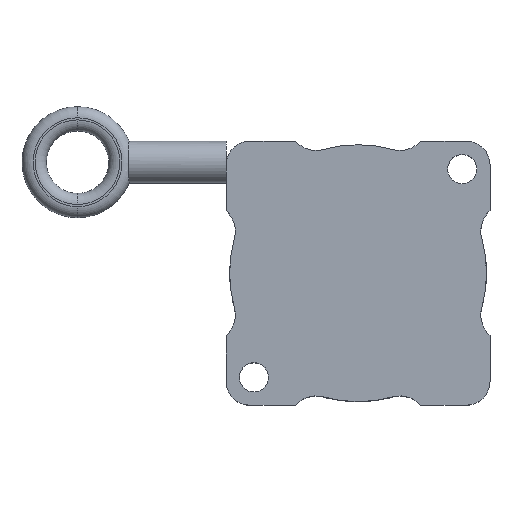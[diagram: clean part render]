
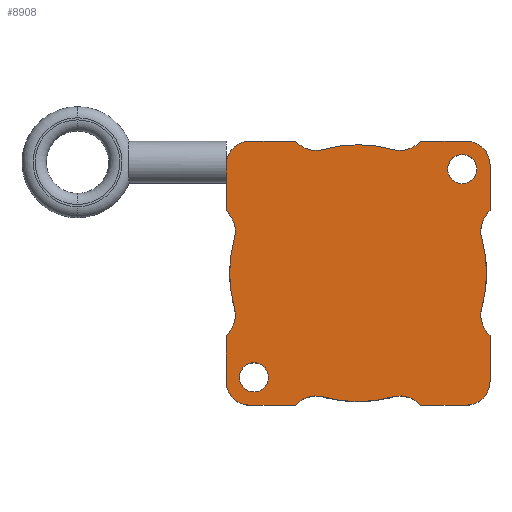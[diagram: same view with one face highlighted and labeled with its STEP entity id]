
A CAD part, top view. The second image highlights one B-rep face of the part: STEP entity #8908.
In plain terms, the highlighted planar face has unit normal (0, 0, 1).
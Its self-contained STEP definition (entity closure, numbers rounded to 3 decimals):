
#803=CARTESIAN_POINT('',(-3.014,-10.839,5.9));
#804=DIRECTION('',(0.,0.,-1.));
#805=DIRECTION('',(-0.743,0.669,0.));
#806=AXIS2_PLACEMENT_3D('',#803,#804,#805);
#808=DIRECTION('',(1.,0.,0.));
#809=VECTOR('',#808,3.3);
#810=CARTESIAN_POINT('',(-7.8,-9.5,5.9));
#811=LINE('',#810,#809);
#812=CARTESIAN_POINT('',(-7.8,-7.8,5.9));
#813=DIRECTION('',(0.,0.,1.));
#814=DIRECTION('',(-1.,0.,0.));
#815=AXIS2_PLACEMENT_3D('',#812,#813,#814);
#817=DIRECTION('',(0.,-1.,0.));
#818=VECTOR('',#817,3.3);
#819=CARTESIAN_POINT('',(-9.5,-4.5,5.9));
#820=LINE('',#819,#818);
#821=CARTESIAN_POINT('',(-10.839,-3.014,5.9));
#822=DIRECTION('',(0.,0.,-1.));
#823=DIRECTION('',(0.963,0.268,0.));
#824=AXIS2_PLACEMENT_3D('',#821,#822,#823);
#826=CARTESIAN_POINT('',(-10.839,3.014,5.9));
#827=DIRECTION('',(0.,0.,-1.));
#828=DIRECTION('',(0.669,0.743,0.));
#829=AXIS2_PLACEMENT_3D('',#826,#827,#828);
#831=DIRECTION('',(0.,-1.,0.));
#832=VECTOR('',#831,3.3);
#833=CARTESIAN_POINT('',(-9.5,7.8,5.9));
#834=LINE('',#833,#832);
#835=CARTESIAN_POINT('',(-7.8,7.8,5.9));
#836=DIRECTION('',(0.,0.,1.));
#837=DIRECTION('',(0.,1.,0.));
#838=AXIS2_PLACEMENT_3D('',#835,#836,#837);
#840=DIRECTION('',(-1.,0.,0.));
#841=VECTOR('',#840,3.3);
#842=CARTESIAN_POINT('',(-4.5,9.5,5.9));
#843=LINE('',#842,#841);
#844=CARTESIAN_POINT('',(-3.014,10.839,5.9));
#845=DIRECTION('',(0.,0.,-1.));
#846=DIRECTION('',(0.268,-0.963,0.));
#847=AXIS2_PLACEMENT_3D('',#844,#845,#846);
#849=CARTESIAN_POINT('',(3.014,10.839,5.9));
#850=DIRECTION('',(0.,0.,-1.));
#851=DIRECTION('',(0.743,-0.669,0.));
#852=AXIS2_PLACEMENT_3D('',#849,#850,#851);
#854=DIRECTION('',(-1.,0.,0.));
#855=VECTOR('',#854,3.3);
#856=CARTESIAN_POINT('',(7.8,9.5,5.9));
#857=LINE('',#856,#855);
#858=CARTESIAN_POINT('',(7.8,7.8,5.9));
#859=DIRECTION('',(0.,0.,1.));
#860=DIRECTION('',(1.,0.,0.));
#861=AXIS2_PLACEMENT_3D('',#858,#859,#860);
#863=DIRECTION('',(0.,1.,0.));
#864=VECTOR('',#863,3.3);
#865=CARTESIAN_POINT('',(9.5,4.5,5.9));
#866=LINE('',#865,#864);
#867=CARTESIAN_POINT('',(10.839,3.014,5.9));
#868=DIRECTION('',(0.,0.,-1.));
#869=DIRECTION('',(-0.963,-0.268,0.));
#870=AXIS2_PLACEMENT_3D('',#867,#868,#869);
#872=CARTESIAN_POINT('',(10.839,-3.014,5.9));
#873=DIRECTION('',(0.,0.,-1.));
#874=DIRECTION('',(-0.669,-0.743,0.));
#875=AXIS2_PLACEMENT_3D('',#872,#873,#874);
#877=DIRECTION('',(0.,1.,0.));
#878=VECTOR('',#877,3.3);
#879=CARTESIAN_POINT('',(9.5,-7.8,5.9));
#880=LINE('',#879,#878);
#881=CARTESIAN_POINT('',(7.8,-7.8,5.9));
#882=DIRECTION('',(0.,0.,1.));
#883=DIRECTION('',(0.,-1.,0.));
#884=AXIS2_PLACEMENT_3D('',#881,#882,#883);
#886=DIRECTION('',(1.,0.,0.));
#887=VECTOR('',#886,3.3);
#888=CARTESIAN_POINT('',(4.5,-9.5,5.9));
#889=LINE('',#888,#887);
#890=CARTESIAN_POINT('',(3.014,-10.839,5.9));
#891=DIRECTION('',(0.,0.,-1.));
#892=DIRECTION('',(-0.268,0.963,0.));
#893=AXIS2_PLACEMENT_3D('',#890,#891,#892);
#895=CARTESIAN_POINT('',(7.5,7.5,5.9));
#896=DIRECTION('',(0.,0.,1.));
#897=DIRECTION('',(1.,0.,0.));
#898=AXIS2_PLACEMENT_3D('',#895,#896,#897);
#900=CARTESIAN_POINT('',(7.5,7.5,5.9));
#901=DIRECTION('',(0.,0.,1.));
#902=DIRECTION('',(-1.,0.,0.));
#903=AXIS2_PLACEMENT_3D('',#900,#901,#902);
#905=CARTESIAN_POINT('',(-7.5,-7.5,5.9));
#906=DIRECTION('',(0.,0.,-1.));
#907=DIRECTION('',(0.,-1.,0.));
#908=AXIS2_PLACEMENT_3D('',#905,#906,#907);
#910=CARTESIAN_POINT('',(-7.5,-7.5,5.9));
#911=DIRECTION('',(0.,0.,-1.));
#912=DIRECTION('',(0.,1.,0.));
#913=AXIS2_PLACEMENT_3D('',#910,#911,#912);
#928=CARTESIAN_POINT('',(0.,0.,5.9));
#929=DIRECTION('',(0.,0.,1.));
#930=DIRECTION('',(-0.268,-0.963,0.));
#931=AXIS2_PLACEMENT_3D('',#928,#929,#930);
#1035=CARTESIAN_POINT('',(0.,0.,5.9));
#1036=DIRECTION('',(0.,0.,1.));
#1037=DIRECTION('',(0.963,-0.268,0.));
#1038=AXIS2_PLACEMENT_3D('',#1035,#1036,#1037);
#1100=CARTESIAN_POINT('',(0.,0.,5.9));
#1101=DIRECTION('',(0.,0.,1.));
#1102=DIRECTION('',(0.268,0.963,0.));
#1103=AXIS2_PLACEMENT_3D('',#1100,#1101,#1102);
#1151=CARTESIAN_POINT('',(0.,0.,5.9));
#1152=DIRECTION('',(0.,0.,1.));
#1153=DIRECTION('',(-0.963,0.268,0.));
#1154=AXIS2_PLACEMENT_3D('',#1151,#1152,#1153);
#7128=CARTESIAN_POINT('',(-9.5,7.8,5.9));
#7129=CARTESIAN_POINT('',(-9.5,4.5,5.9));
#7130=VERTEX_POINT('',#7128);
#7131=VERTEX_POINT('',#7129);
#7132=CARTESIAN_POINT('',(-4.5,9.5,5.9));
#7133=CARTESIAN_POINT('',(-7.8,9.5,5.9));
#7134=VERTEX_POINT('',#7132);
#7135=VERTEX_POINT('',#7133);
#7136=CARTESIAN_POINT('',(-8.912,2.478,5.9));
#7137=VERTEX_POINT('',#7136);
#7138=CARTESIAN_POINT('',(-2.478,8.912,5.9));
#7139=VERTEX_POINT('',#7138);
#7140=CARTESIAN_POINT('',(7.8,9.5,5.9));
#7141=CARTESIAN_POINT('',(4.5,9.5,5.9));
#7142=VERTEX_POINT('',#7140);
#7143=VERTEX_POINT('',#7141);
#7144=CARTESIAN_POINT('',(9.5,4.5,5.9));
#7145=CARTESIAN_POINT('',(9.5,7.8,5.9));
#7146=VERTEX_POINT('',#7144);
#7147=VERTEX_POINT('',#7145);
#7148=CARTESIAN_POINT('',(2.478,8.912,5.9));
#7149=VERTEX_POINT('',#7148);
#7150=CARTESIAN_POINT('',(8.912,2.478,5.9));
#7151=VERTEX_POINT('',#7150);
#7152=CARTESIAN_POINT('',(9.5,-7.8,5.9));
#7153=CARTESIAN_POINT('',(9.5,-4.5,5.9));
#7154=VERTEX_POINT('',#7152);
#7155=VERTEX_POINT('',#7153);
#7156=CARTESIAN_POINT('',(4.5,-9.5,5.9));
#7157=CARTESIAN_POINT('',(7.8,-9.5,5.9));
#7158=VERTEX_POINT('',#7156);
#7159=VERTEX_POINT('',#7157);
#7160=CARTESIAN_POINT('',(8.912,-2.478,5.9));
#7161=VERTEX_POINT('',#7160);
#7162=CARTESIAN_POINT('',(2.478,-8.912,5.9));
#7163=VERTEX_POINT('',#7162);
#7164=CARTESIAN_POINT('',(-7.8,-9.5,5.9));
#7165=CARTESIAN_POINT('',(-4.5,-9.5,5.9));
#7166=VERTEX_POINT('',#7164);
#7167=VERTEX_POINT('',#7165);
#7168=CARTESIAN_POINT('',(-9.5,-4.5,5.9));
#7169=CARTESIAN_POINT('',(-9.5,-7.8,5.9));
#7170=VERTEX_POINT('',#7168);
#7171=VERTEX_POINT('',#7169);
#7172=CARTESIAN_POINT('',(-8.912,-2.478,5.9));
#7173=VERTEX_POINT('',#7172);
#7174=CARTESIAN_POINT('',(-2.478,-8.912,5.9));
#7175=VERTEX_POINT('',#7174);
#7199=CARTESIAN_POINT('',(8.55,7.5,5.9));
#7200=CARTESIAN_POINT('',(6.45,7.5,5.9));
#7201=VERTEX_POINT('',#7199);
#7202=VERTEX_POINT('',#7200);
#7205=CARTESIAN_POINT('',(-7.5,-8.55,5.9));
#7206=CARTESIAN_POINT('',(-7.5,-6.45,5.9));
#7207=VERTEX_POINT('',#7205);
#7208=VERTEX_POINT('',#7206);
#8843=CARTESIAN_POINT('',(0.,0.,5.9));
#8844=DIRECTION('',(0.,0.,1.));
#8845=DIRECTION('',(1.,0.,0.));
#8846=AXIS2_PLACEMENT_3D('',#8843,#8844,#8845);
#8847=PLANE('',#8846);
#8849=ORIENTED_EDGE('',*,*,#8848,.F.);
#8851=ORIENTED_EDGE('',*,*,#8850,.F.);
#8853=ORIENTED_EDGE('',*,*,#8852,.F.);
#8855=ORIENTED_EDGE('',*,*,#8854,.F.);
#8857=ORIENTED_EDGE('',*,*,#8856,.F.);
#8859=ORIENTED_EDGE('',*,*,#8858,.F.);
#8861=ORIENTED_EDGE('',*,*,#8860,.F.);
#8863=ORIENTED_EDGE('',*,*,#8862,.F.);
#8864=ORIENTED_EDGE('',*,*,#8563,.F.);
#8865=ORIENTED_EDGE('',*,*,#8542,.F.);
#8867=ORIENTED_EDGE('',*,*,#8866,.F.);
#8869=ORIENTED_EDGE('',*,*,#8868,.F.);
#8871=ORIENTED_EDGE('',*,*,#8870,.F.);
#8873=ORIENTED_EDGE('',*,*,#8872,.F.);
#8875=ORIENTED_EDGE('',*,*,#8874,.F.);
#8877=ORIENTED_EDGE('',*,*,#8876,.F.);
#8879=ORIENTED_EDGE('',*,*,#8878,.F.);
#8881=ORIENTED_EDGE('',*,*,#8880,.F.);
#8883=ORIENTED_EDGE('',*,*,#8882,.F.);
#8885=ORIENTED_EDGE('',*,*,#8884,.F.);
#8887=ORIENTED_EDGE('',*,*,#8886,.F.);
#8889=ORIENTED_EDGE('',*,*,#8888,.F.);
#8891=ORIENTED_EDGE('',*,*,#8890,.F.);
#8893=ORIENTED_EDGE('',*,*,#8892,.F.);
#8894=EDGE_LOOP('',(#8849,#8851,#8853,#8855,#8857,#8859,#8861,#8863,#8864,#8865,
#8867,#8869,#8871,#8873,#8875,#8877,#8879,#8881,#8883,#8885,#8887,#8889,#8891,
#8893));
#8895=FACE_OUTER_BOUND('',#8894,.F.);
#8897=ORIENTED_EDGE('',*,*,#8896,.T.);
#8899=ORIENTED_EDGE('',*,*,#8898,.T.);
#8900=EDGE_LOOP('',(#8897,#8899));
#8901=FACE_BOUND('',#8900,.F.);
#8903=ORIENTED_EDGE('',*,*,#8902,.F.);
#8905=ORIENTED_EDGE('',*,*,#8904,.F.);
#8906=EDGE_LOOP('',(#8903,#8905));
#8907=FACE_BOUND('',#8906,.F.);
#8908=ADVANCED_FACE('',(#8895,#8901,#8907),#8847,.T.);
#807=CIRCLE('',#806,2.);
#816=CIRCLE('',#815,1.7);
#825=CIRCLE('',#824,2.);
#830=CIRCLE('',#829,2.);
#839=CIRCLE('',#838,1.7);
#848=CIRCLE('',#847,2.);
#853=CIRCLE('',#852,2.);
#862=CIRCLE('',#861,1.7);
#871=CIRCLE('',#870,2.);
#876=CIRCLE('',#875,2.);
#885=CIRCLE('',#884,1.7);
#894=CIRCLE('',#893,2.);
#899=CIRCLE('',#898,1.05);
#904=CIRCLE('',#903,1.05);
#909=CIRCLE('',#908,1.05);
#914=CIRCLE('',#913,1.05);
#932=CIRCLE('',#931,9.25);
#1039=CIRCLE('',#1038,9.25);
#1104=CIRCLE('',#1103,9.25);
#1155=CIRCLE('',#1154,9.25);
#8542=EDGE_CURVE('',#7135,#7130,#839,.T.);
#8563=EDGE_CURVE('',#7130,#7131,#834,.T.);
#8848=EDGE_CURVE('',#7175,#7163,#932,.T.);
#8850=EDGE_CURVE('',#7167,#7175,#807,.T.);
#8852=EDGE_CURVE('',#7166,#7167,#811,.T.);
#8854=EDGE_CURVE('',#7171,#7166,#816,.T.);
#8856=EDGE_CURVE('',#7170,#7171,#820,.T.);
#8858=EDGE_CURVE('',#7173,#7170,#825,.T.);
#8860=EDGE_CURVE('',#7137,#7173,#1155,.T.);
#8862=EDGE_CURVE('',#7131,#7137,#830,.T.);
#8866=EDGE_CURVE('',#7134,#7135,#843,.T.);
#8868=EDGE_CURVE('',#7139,#7134,#848,.T.);
#8870=EDGE_CURVE('',#7149,#7139,#1104,.T.);
#8872=EDGE_CURVE('',#7143,#7149,#853,.T.);
#8874=EDGE_CURVE('',#7142,#7143,#857,.T.);
#8876=EDGE_CURVE('',#7147,#7142,#862,.T.);
#8878=EDGE_CURVE('',#7146,#7147,#866,.T.);
#8880=EDGE_CURVE('',#7151,#7146,#871,.T.);
#8882=EDGE_CURVE('',#7161,#7151,#1039,.T.);
#8884=EDGE_CURVE('',#7155,#7161,#876,.T.);
#8886=EDGE_CURVE('',#7154,#7155,#880,.T.);
#8888=EDGE_CURVE('',#7159,#7154,#885,.T.);
#8890=EDGE_CURVE('',#7158,#7159,#889,.T.);
#8892=EDGE_CURVE('',#7163,#7158,#894,.T.);
#8896=EDGE_CURVE('',#7201,#7202,#899,.T.);
#8898=EDGE_CURVE('',#7202,#7201,#904,.T.);
#8902=EDGE_CURVE('',#7207,#7208,#909,.T.);
#8904=EDGE_CURVE('',#7208,#7207,#914,.T.);
